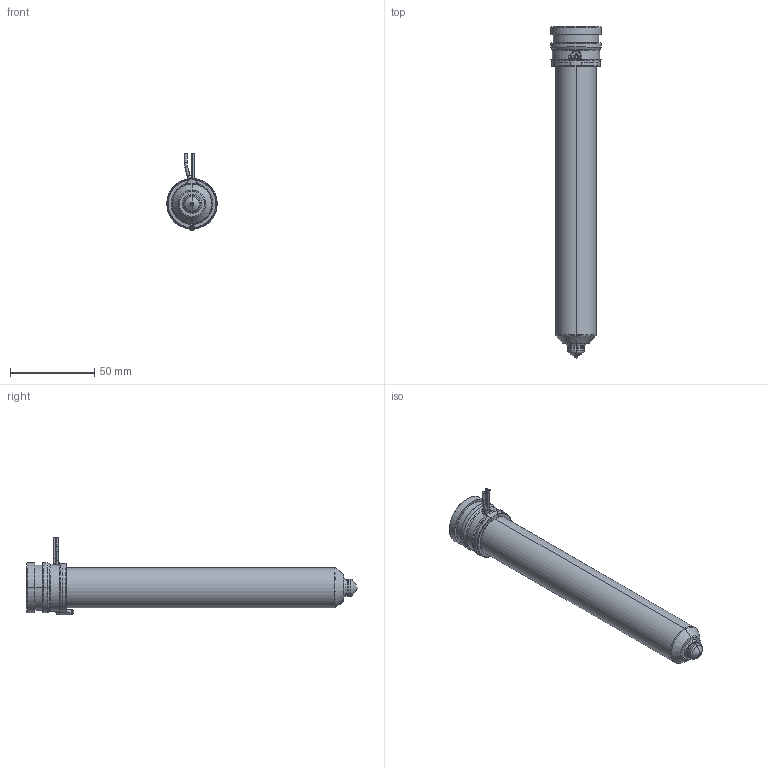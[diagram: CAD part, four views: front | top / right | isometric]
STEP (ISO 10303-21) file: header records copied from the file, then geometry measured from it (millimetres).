
FILE_DESCRIPTION((''),'2;1');
FILE_NAME('MPN-10-29-TX10-176-A','2026-02-11T11:17:54',('UVRWS'),('Thermoplay S.p.A.'),'CREO PARAMETRIC BY PTC INC, 2023494','CREO PARAMETRIC BY PTC INC, 2023494','');
FILE_SCHEMA(('CONFIG_CONTROL_DESIGN','SHAPE_APPEARANCE_LAYERS_GROUPS'));
Length unit declared in the file: millimetre
Products named in the file (1): MPN-10-29-TX10-176-A
Bounding box: 30 x 197.5 x 46 mm (x, y, z)
Volume: 60959.4 mm3; surface area: 61689.8 mm2
Topology: 2 solids, 3 shells, 551 faces, 1455 edges, 899 vertices
Faces by surface type: cylinder 180, plane 143, bspline 79, torus 68, cone 66, sphere 11, extrusion 4
Entity records: 31345 total; most frequent: CARTESIAN_POINT 14989, ORIENTED_EDGE 2894, DIRECTION 2641, EDGE_CURVE 1447, AXIS2_PLACEMENT_3D 1045, VERTEX_POINT 899, EDGE_LOOP 580, CIRCLE 576
